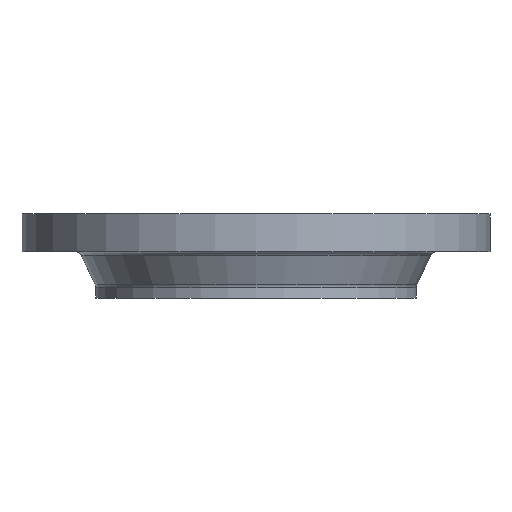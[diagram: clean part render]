
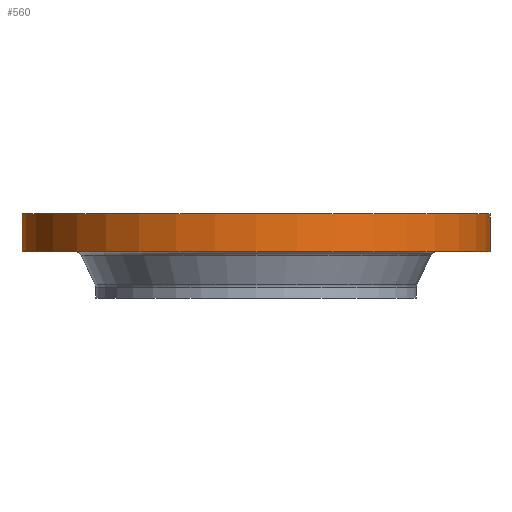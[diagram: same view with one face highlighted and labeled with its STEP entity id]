
A CAD part, front view. The second image highlights one B-rep face of the part: STEP entity #560.
In plain terms, the highlighted cylindrical face has radius 445 mm (diameter 890 mm), a partial arc.
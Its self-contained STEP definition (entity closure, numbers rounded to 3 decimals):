
#5 = DIRECTION ( 'NONE',  ( 1., 0., 0. ) ) ;
#6 = DIRECTION ( 'NONE',  ( 0., 0., 1. ) ) ;
#8 = CARTESIAN_POINT ( 'NONE',  ( 0., 0., 0. ) ) ;
#122 = CARTESIAN_POINT ( 'NONE',  ( -445., 0., 0. ) ) ;
#166 = CARTESIAN_POINT ( 'NONE',  ( 445., 0., -72. ) ) ;
#186 = AXIS2_PLACEMENT_3D ( 'NONE', #8, #6, #5 ) ;
#217 = DIRECTION ( 'NONE',  ( 0., 0., 1. ) ) ;
#218 = CARTESIAN_POINT ( 'NONE',  ( 445., 0., -160. ) ) ;
#219 = LINE ( 'NONE', #218, #1508 ) ;
#450 = CARTESIAN_POINT ( 'NONE',  ( 445., 0., 0. ) ) ;
#468 = CARTESIAN_POINT ( 'NONE',  ( -445., 0., -72. ) ) ;
#560 = ADVANCED_FACE ( 'NONE', ( #880 ), #879, .T. ) ;
#609 = VECTOR ( 'NONE', #632, 1000. ) ;
#632 = DIRECTION ( 'NONE',  ( 0., 0., 1. ) ) ;
#633 = CARTESIAN_POINT ( 'NONE',  ( -445., 0., -160. ) ) ;
#634 = LINE ( 'NONE', #633, #609 ) ;
#686 = AXIS2_PLACEMENT_3D ( 'NONE', #877, #876, #875 ) ;
#748 = EDGE_CURVE ( 'NONE', #1188, #1769, #802, .T. ) ;
#759 = DIRECTION ( 'NONE',  ( 1., 0., 0. ) ) ;
#760 = DIRECTION ( 'NONE',  ( 0., 0., 1. ) ) ;
#762 = CARTESIAN_POINT ( 'NONE',  ( 0., 0., -72. ) ) ;
#802 = CIRCLE ( 'NONE', #1271, 445. ) ;
#870 = EDGE_CURVE ( 'NONE', #1188, #1803, #634, .T. ) ;
#875 = DIRECTION ( 'NONE',  ( 1., 0., 0. ) ) ;
#876 = DIRECTION ( 'NONE',  ( 0., 0., 1. ) ) ;
#877 = CARTESIAN_POINT ( 'NONE',  ( 0., 0., -160. ) ) ;
#879 = CYLINDRICAL_SURFACE ( 'NONE', #686, 445. ) ;
#880 = FACE_OUTER_BOUND ( 'NONE', #1183, .T. ) ;
#1183 = EDGE_LOOP ( 'NONE', ( #1287, #1286, #1340, #1374 ) ) ;
#1188 = VERTEX_POINT ( 'NONE', #468 ) ;
#1219 = CIRCLE ( 'NONE', #186, 445. ) ;
#1229 = VERTEX_POINT ( 'NONE', #450 ) ;
#1271 = AXIS2_PLACEMENT_3D ( 'NONE', #762, #760, #759 ) ;
#1286 = ORIENTED_EDGE ( 'NONE', *, *, #748, .T. ) ;
#1287 = ORIENTED_EDGE ( 'NONE', *, *, #870, .F. ) ;
#1340 = ORIENTED_EDGE ( 'NONE', *, *, #1721, .T. ) ;
#1374 = ORIENTED_EDGE ( 'NONE', *, *, #1846, .F. ) ;
#1508 = VECTOR ( 'NONE', #217, 1000. ) ;
#1721 = EDGE_CURVE ( 'NONE', #1769, #1229, #219, .T. ) ;
#1769 = VERTEX_POINT ( 'NONE', #166 ) ;
#1803 = VERTEX_POINT ( 'NONE', #122 ) ;
#1846 = EDGE_CURVE ( 'NONE', #1803, #1229, #1219, .T. ) ;
